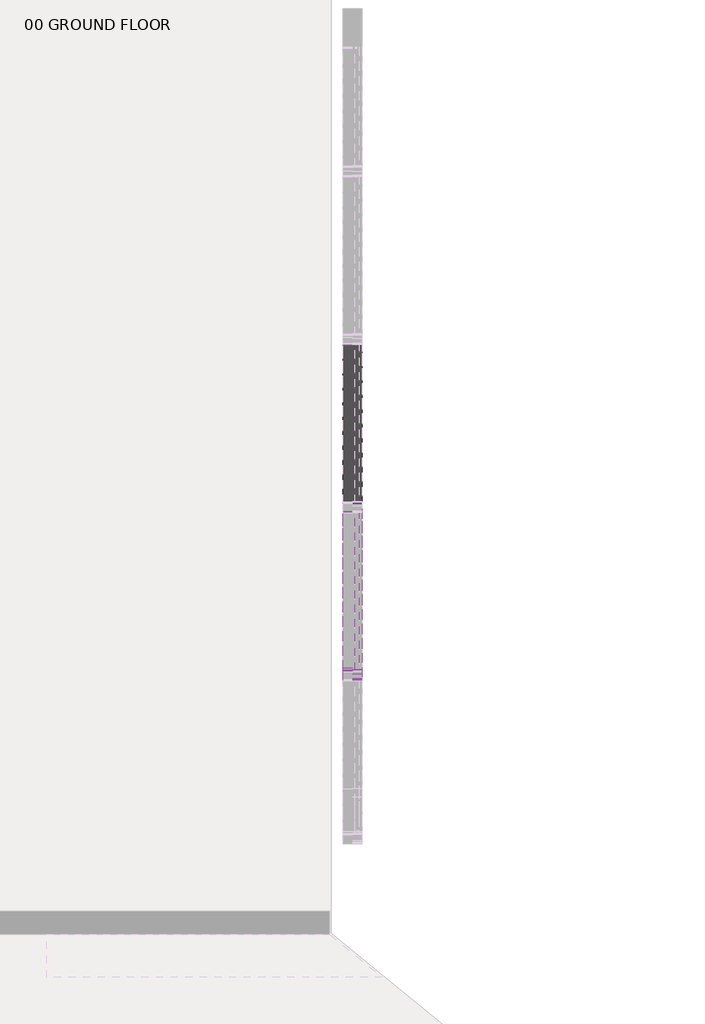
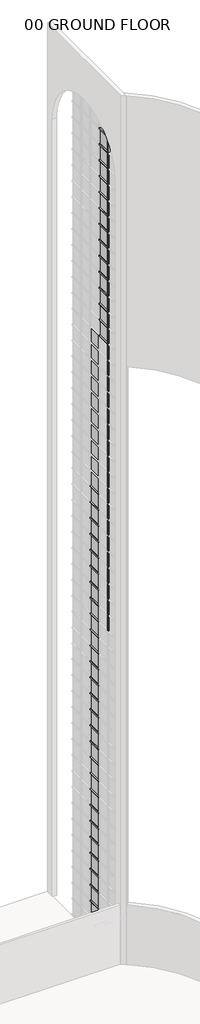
# One storey, part 26 of 33: 76 members, 51 plates.
"""IFC4 building model written with IfcOpenShell, lengths in millimetres."""

from ifc_helpers import new_model, si_unit, origin, place, context, project, spatial, transform, mapped, element, save
from components import member_14f97ceb, member_d1490fb0, member_2b49869a, member_f6015b47, member_ba1b3d85, member_e8d631ba, system_panel_glazed_c90b0923, system_panel_glazed_ba000c98

model = new_model("IFC4")

# Units and contexts
model_context = context("Model", 3, world=origin())
ifc_project = project(units=[si_unit("LENGTHUNIT", "METRE", prefix="MILLI")], contexts=[model_context])

# Site, building, storey
site = spatial("IfcSite", under=ifc_project)
building = spatial("IfcBuilding", under=site)
storey = spatial("IfcBuildingStorey", under=building, Name="00 GROUND FLOOR", Elevation=0.0)

# Members
placement = place(None, origin())
member_shape = member_14f97ceb(model_context)
element("IfcMember", 1, ObjectType="Rectangular Mullion : 2.5\" x 5\" rectangular", at=placement, inside=storey, context=model_context, shape_type="MappedRepresentation", body=[
    mapped(member_shape, transform((44184.4050515, 27381.6535716, 0.0), x_axis=(0.0, 0.0, -1.0), y_axis=(-1.0, 0.0, 0.0), z_axis=(0.0, 1.0, 0.0))),
])
member_2_shape = member_d1490fb0(model_context)
element("IfcMember", 2, ObjectType="Rectangular Mullion : 2.5\" x 5\" rectangular", at=placement, inside=storey, context=model_context, shape_type="MappedRepresentation", body=[
    mapped(member_2_shape, transform((44184.4050515, 27445.1535716, 1219.2), x_axis=(0.0, 0.0, 1.0), y_axis=(-1.0, 0.0, 0.0), z_axis=(0.0, -1.0, 0.0))),
])
element("IfcMember", 3, ObjectType="Rectangular Mullion : 2.5\" x 5\" rectangular", at=placement, inside=storey, context=model_context, shape_type="MappedRepresentation", body=[
    mapped(member_2_shape, transform((44184.4050515, 27445.1535716, 2438.4), x_axis=(0.0, 0.0, 1.0), y_axis=(-1.0, 0.0, 0.0), z_axis=(0.0, -1.0, 0.0))),
])
element("IfcMember", 4, ObjectType="Rectangular Mullion : 2.5\" x 5\" rectangular", at=placement, inside=storey, context=model_context, shape_type="MappedRepresentation", body=[
    mapped(member_2_shape, transform((44184.4050515, 27445.1535716, 3657.6), x_axis=(0.0, 0.0, 1.0), y_axis=(-1.0, 0.0, 0.0), z_axis=(0.0, -1.0, 0.0))),
])
element("IfcMember", 5, ObjectType="Rectangular Mullion : 2.5\" x 5\" rectangular", at=placement, inside=storey, context=model_context, shape_type="MappedRepresentation", body=[
    mapped(member_2_shape, transform((44184.4050515, 27445.1535716, 4876.8), x_axis=(0.0, 0.0, 1.0), y_axis=(-1.0, 0.0, 0.0), z_axis=(0.0, -1.0, 0.0))),
])
element("IfcMember", 6, ObjectType="Rectangular Mullion : 2.5\" x 5\" rectangular", at=placement, inside=storey, context=model_context, shape_type="MappedRepresentation", body=[
    mapped(member_2_shape, transform((44184.4050515, 27445.1535716, 6096.0), x_axis=(0.0, 0.0, 1.0), y_axis=(-1.0, 0.0, 0.0), z_axis=(0.0, -1.0, 0.0))),
])
element("IfcMember", 7, ObjectType="Rectangular Mullion : 2.5\" x 5\" rectangular", at=placement, inside=storey, context=model_context, shape_type="MappedRepresentation", body=[
    mapped(member_2_shape, transform((44184.4050515, 27445.1535716, 7315.2), x_axis=(0.0, 0.0, 1.0), y_axis=(-1.0, 0.0, 0.0), z_axis=(0.0, -1.0, 0.0))),
])
element("IfcMember", 8, ObjectType="Rectangular Mullion : 2.5\" x 5\" rectangular", at=placement, inside=storey, context=model_context, shape_type="MappedRepresentation", body=[
    mapped(member_2_shape, transform((44184.4050515, 27445.1535716, 8534.4), x_axis=(0.0, 0.0, 1.0), y_axis=(-1.0, 0.0, 0.0), z_axis=(0.0, -1.0, 0.0))),
])
element("IfcMember", 9, ObjectType="Rectangular Mullion : 2.5\" x 5\" rectangular", at=placement, inside=storey, context=model_context, shape_type="MappedRepresentation", body=[
    mapped(member_2_shape, transform((44184.4050515, 27445.1535716, 9753.6), x_axis=(0.0, 0.0, 1.0), y_axis=(-1.0, 0.0, 0.0), z_axis=(0.0, -1.0, 0.0))),
])
element("IfcMember", 10, ObjectType="Rectangular Mullion : 2.5\" x 5\" rectangular", at=placement, inside=storey, context=model_context, shape_type="MappedRepresentation", body=[
    mapped(member_2_shape, transform((44184.4050515, 27445.1535716, 10972.8), x_axis=(0.0, 0.0, 1.0), y_axis=(-1.0, 0.0, 0.0), z_axis=(0.0, -1.0, 0.0))),
])
element("IfcMember", 11, ObjectType="Rectangular Mullion : 2.5\" x 5\" rectangular", at=placement, inside=storey, context=model_context, shape_type="MappedRepresentation", body=[
    mapped(member_2_shape, transform((44184.4050515, 27445.1535716, 12192.0), x_axis=(0.0, 0.0, 1.0), y_axis=(-1.0, 0.0, 0.0), z_axis=(0.0, -1.0, 0.0))),
])
element("IfcMember", 12, ObjectType="Rectangular Mullion : 2.5\" x 5\" rectangular", at=placement, inside=storey, context=model_context, shape_type="MappedRepresentation", body=[
    mapped(member_2_shape, transform((44184.4050515, 27445.1535716, 13411.2), x_axis=(0.0, 0.0, 1.0), y_axis=(-1.0, 0.0, 0.0), z_axis=(0.0, -1.0, 0.0))),
])
element("IfcMember", 13, ObjectType="Rectangular Mullion : 2.5\" x 5\" rectangular", at=placement, inside=storey, context=model_context, shape_type="MappedRepresentation", body=[
    mapped(member_2_shape, transform((44184.4050515, 27445.1535716, 14630.4), x_axis=(0.0, 0.0, 1.0), y_axis=(-1.0, 0.0, 0.0), z_axis=(0.0, -1.0, 0.0))),
])
element("IfcMember", 14, ObjectType="Rectangular Mullion : 2.5\" x 5\" rectangular", at=placement, inside=storey, context=model_context, shape_type="MappedRepresentation", body=[
    mapped(member_2_shape, transform((44184.4050515, 27445.1535716, 15849.6), x_axis=(0.0, 0.0, 1.0), y_axis=(-1.0, 0.0, 0.0), z_axis=(0.0, -1.0, 0.0))),
])
element("IfcMember", 15, ObjectType="Rectangular Mullion : 2.5\" x 5\" rectangular", at=placement, inside=storey, context=model_context, shape_type="MappedRepresentation", body=[
    mapped(member_2_shape, transform((44184.4050515, 27445.1535716, 17068.8), x_axis=(0.0, 0.0, 1.0), y_axis=(-1.0, 0.0, 0.0), z_axis=(0.0, -1.0, 0.0))),
])
element("IfcMember", 16, ObjectType="Rectangular Mullion : 2.5\" x 5\" rectangular", at=placement, inside=storey, context=model_context, shape_type="MappedRepresentation", body=[
    mapped(member_2_shape, transform((44184.4050515, 27445.1535716, 18288.0), x_axis=(0.0, 0.0, 1.0), y_axis=(-1.0, 0.0, 0.0), z_axis=(0.0, -1.0, 0.0))),
])
element("IfcMember", 17, ObjectType="Rectangular Mullion : 2.5\" x 5\" rectangular", at=placement, inside=storey, context=model_context, shape_type="MappedRepresentation", body=[
    mapped(member_2_shape, transform((44184.4050515, 27445.1535716, 19507.2), x_axis=(0.0, 0.0, 1.0), y_axis=(-1.0, 0.0, 0.0), z_axis=(0.0, -1.0, 0.0))),
])
element("IfcMember", 18, ObjectType="Rectangular Mullion : 2.5\" x 5\" rectangular", at=placement, inside=storey, context=model_context, shape_type="MappedRepresentation", body=[
    mapped(member_2_shape, transform((44184.4050515, 27445.1535716, 20726.4), x_axis=(0.0, 0.0, 1.0), y_axis=(-1.0, 0.0, 0.0), z_axis=(0.0, -1.0, 0.0))),
])
element("IfcMember", 19, ObjectType="Rectangular Mullion : 2.5\" x 5\" rectangular", at=placement, inside=storey, context=model_context, shape_type="MappedRepresentation", body=[
    mapped(member_2_shape, transform((44184.4050515, 27445.1535716, 21945.6), x_axis=(0.0, 0.0, 1.0), y_axis=(-1.0, 0.0, 0.0), z_axis=(0.0, -1.0, 0.0))),
])
element("IfcMember", 20, ObjectType="Rectangular Mullion : 2.5\" x 5\" rectangular", at=placement, inside=storey, context=model_context, shape_type="MappedRepresentation", body=[
    mapped(member_2_shape, transform((44184.4050515, 27445.1535716, 23164.8), x_axis=(0.0, 0.0, 1.0), y_axis=(-1.0, 0.0, 0.0), z_axis=(0.0, -1.0, 0.0))),
])
element("IfcMember", 21, ObjectType="Rectangular Mullion : 2.5\" x 5\" rectangular", at=placement, inside=storey, context=model_context, shape_type="MappedRepresentation", body=[
    mapped(member_2_shape, transform((44184.4050515, 27445.1535716, 24384.0), x_axis=(0.0, 0.0, 1.0), y_axis=(-1.0, 0.0, 0.0), z_axis=(0.0, -1.0, 0.0))),
])
element("IfcMember", 22, ObjectType="Rectangular Mullion : 2.5\" x 5\" rectangular", at=placement, inside=storey, context=model_context, shape_type="MappedRepresentation", body=[
    mapped(member_2_shape, transform((44184.4050515, 27445.1535716, 25603.2), x_axis=(0.0, 0.0, 1.0), y_axis=(-1.0, 0.0, 0.0), z_axis=(0.0, -1.0, 0.0))),
])
element("IfcMember", 23, ObjectType="Rectangular Mullion : 2.5\" x 5\" rectangular", at=placement, inside=storey, context=model_context, shape_type="MappedRepresentation", body=[
    mapped(member_2_shape, transform((44184.4050515, 27445.1535716, 26822.4), x_axis=(0.0, 0.0, 1.0), y_axis=(-1.0, 0.0, 0.0), z_axis=(0.0, -1.0, 0.0))),
])
element("IfcMember", 24, ObjectType="Rectangular Mullion : 2.5\" x 5\" rectangular", at=placement, inside=storey, context=model_context, shape_type="MappedRepresentation", body=[
    mapped(member_2_shape, transform((44184.4050515, 27445.1535716, 28041.6), x_axis=(0.0, 0.0, 1.0), y_axis=(-1.0, 0.0, 0.0), z_axis=(0.0, -1.0, 0.0))),
])
element("IfcMember", 25, ObjectType="Rectangular Mullion : 2.5\" x 5\" rectangular", at=placement, inside=storey, context=model_context, shape_type="MappedRepresentation", body=[
    mapped(member_2_shape, transform((44184.4050515, 27445.1535716, 29260.8), x_axis=(0.0, 0.0, 1.0), y_axis=(-1.0, 0.0, 0.0), z_axis=(0.0, -1.0, 0.0))),
])
element("IfcMember", 26, ObjectType="Rectangular Mullion : 2.5\" x 5\" rectangular", at=placement, inside=storey, context=model_context, shape_type="MappedRepresentation", body=[
    mapped(member_2_shape, transform((44184.4050515, 27445.1535716, 30480.0), x_axis=(0.0, 0.0, 1.0), y_axis=(-1.0, 0.0, 0.0), z_axis=(0.0, -1.0, 0.0))),
])
element("IfcMember", 27, ObjectType="Rectangular Mullion : 2.5\" x 5\" rectangular", at=placement, inside=storey, context=model_context, shape_type="MappedRepresentation", body=[
    mapped(member_2_shape, transform((44184.4050515, 27445.1535716, 31699.2), x_axis=(0.0, 0.0, 1.0), y_axis=(-1.0, 0.0, 0.0), z_axis=(0.0, -1.0, 0.0))),
])
element("IfcMember", 28, ObjectType="Rectangular Mullion : 2.5\" x 5\" rectangular", at=placement, inside=storey, context=model_context, shape_type="MappedRepresentation", body=[
    mapped(member_2_shape, transform((44184.4050515, 27445.1535716, 32918.4), x_axis=(0.0, 0.0, 1.0), y_axis=(-1.0, 0.0, 0.0), z_axis=(0.0, -1.0, 0.0))),
])
element("IfcMember", 29, ObjectType="Rectangular Mullion : 2.5\" x 5\" rectangular", at=placement, inside=storey, context=model_context, shape_type="MappedRepresentation", body=[
    mapped(member_2_shape, transform((44184.4050515, 27445.1535716, 34137.6), x_axis=(0.0, 0.0, 1.0), y_axis=(-1.0, 0.0, 0.0), z_axis=(0.0, -1.0, 0.0))),
])
element("IfcMember", 30, ObjectType="Rectangular Mullion : 2.5\" x 5\" rectangular", at=placement, inside=storey, context=model_context, shape_type="MappedRepresentation", body=[
    mapped(member_2_shape, transform((44184.4050515, 26313.0392859, 46329.6), x_axis=(0.0, 0.0, 1.0), y_axis=(-1.0, 0.0, 0.0), z_axis=(0.0, -1.0, 0.0))),
])
element("IfcMember", 31, ObjectType="Rectangular Mullion : 2.5\" x 5\" rectangular", at=placement, inside=storey, context=model_context, shape_type="MappedRepresentation", body=[
    mapped(member_2_shape, transform((44184.4050515, 26313.0392859, 47548.8), x_axis=(0.0, 0.0, 1.0), y_axis=(-1.0, 0.0, 0.0), z_axis=(0.0, -1.0, 0.0))),
])
element("IfcMember", 32, ObjectType="Rectangular Mullion : 2.5\" x 5\" rectangular", at=placement, inside=storey, context=model_context, shape_type="MappedRepresentation", body=[
    mapped(member_2_shape, transform((44184.4050515, 26313.0392859, 48768.0), x_axis=(0.0, 0.0, 1.0), y_axis=(-1.0, 0.0, 0.0), z_axis=(0.0, -1.0, 0.0))),
])
element("IfcMember", 33, ObjectType="Rectangular Mullion : 2.5\" x 5\" rectangular", at=placement, inside=storey, context=model_context, shape_type="MappedRepresentation", body=[
    mapped(member_2_shape, transform((44184.4050515, 26313.0392859, 49987.2), x_axis=(0.0, 0.0, 1.0), y_axis=(-1.0, 0.0, 0.0), z_axis=(0.0, -1.0, 0.0))),
])
element("IfcMember", 34, ObjectType="Rectangular Mullion : 2.5\" x 5\" rectangular", at=placement, inside=storey, context=model_context, shape_type="MappedRepresentation", body=[
    mapped(member_2_shape, transform((44184.4050515, 26313.0392859, 51206.4), x_axis=(0.0, 0.0, 1.0), y_axis=(-1.0, 0.0, 0.0), z_axis=(0.0, -1.0, 0.0))),
])
element("IfcMember", 35, ObjectType="Rectangular Mullion : 2.5\" x 5\" rectangular", at=placement, inside=storey, context=model_context, shape_type="MappedRepresentation", body=[
    mapped(member_2_shape, transform((44184.4050515, 26313.0392859, 52425.6), x_axis=(0.0, 0.0, 1.0), y_axis=(-1.0, 0.0, 0.0), z_axis=(0.0, -1.0, 0.0))),
])
element("IfcMember", 36, ObjectType="Rectangular Mullion : 2.5\" x 5\" rectangular", at=placement, inside=storey, context=model_context, shape_type="MappedRepresentation", body=[
    mapped(member_2_shape, transform((44184.4050515, 26313.0392859, 53644.8), x_axis=(0.0, 0.0, 1.0), y_axis=(-1.0, 0.0, 0.0), z_axis=(0.0, -1.0, 0.0))),
])
element("IfcMember", 37, ObjectType="Rectangular Mullion : 2.5\" x 5\" rectangular", at=placement, inside=storey, context=model_context, shape_type="MappedRepresentation", body=[
    mapped(member_2_shape, transform((44184.4050515, 26313.0392859, 54864.0), x_axis=(0.0, 0.0, 1.0), y_axis=(-1.0, 0.0, 0.0), z_axis=(0.0, -1.0, 0.0))),
])
element("IfcMember", 38, ObjectType="Rectangular Mullion : 2.5\" x 5\" rectangular", at=placement, inside=storey, context=model_context, shape_type="MappedRepresentation", body=[
    mapped(member_2_shape, transform((44184.4050515, 26313.0392859, 56083.2), x_axis=(0.0, 0.0, 1.0), y_axis=(-1.0, 0.0, 0.0), z_axis=(0.0, -1.0, 0.0))),
])
element("IfcMember", 39, ObjectType="Rectangular Mullion : 2.5\" x 5\" rectangular", at=placement, inside=storey, context=model_context, shape_type="MappedRepresentation", body=[
    mapped(member_2_shape, transform((44184.4050515, 26313.0392859, 57302.4), x_axis=(0.0, 0.0, 1.0), y_axis=(-1.0, 0.0, 0.0), z_axis=(0.0, -1.0, 0.0))),
])
element("IfcMember", 40, ObjectType="Rectangular Mullion : 2.5\" x 5\" rectangular", at=placement, inside=storey, context=model_context, shape_type="MappedRepresentation", body=[
    mapped(member_2_shape, transform((44184.4050515, 26313.0392859, 58521.6), x_axis=(0.0, 0.0, 1.0), y_axis=(-1.0, 0.0, 0.0), z_axis=(0.0, -1.0, 0.0))),
])
element("IfcMember", 41, ObjectType="Rectangular Mullion : 2.5\" x 5\" rectangular", at=placement, inside=storey, context=model_context, shape_type="MappedRepresentation", body=[
    mapped(member_2_shape, transform((44184.4050515, 26313.0392859, 59740.8), x_axis=(0.0, 0.0, 1.0), y_axis=(-1.0, 0.0, 0.0), z_axis=(0.0, -1.0, 0.0))),
])
element("IfcMember", 42, ObjectType="Rectangular Mullion : 2.5\" x 5\" rectangular", at=placement, inside=storey, context=model_context, shape_type="MappedRepresentation", body=[
    mapped(member_2_shape, transform((44184.4050515, 26313.0392859, 60960.0), x_axis=(0.0, 0.0, 1.0), y_axis=(-1.0, 0.0, 0.0), z_axis=(0.0, -1.0, 0.0))),
])
element("IfcMember", 43, ObjectType="Rectangular Mullion : 2.5\" x 5\" rectangular", at=placement, inside=storey, context=model_context, shape_type="MappedRepresentation", body=[
    mapped(member_2_shape, transform((44184.4050515, 26313.0392859, 62179.2), x_axis=(0.0, 0.0, 1.0), y_axis=(-1.0, 0.0, 0.0), z_axis=(0.0, -1.0, 0.0))),
])
member_3_shape = member_2b49869a(model_context)
element("IfcMember", 44, ObjectType="Rectangular Mullion : 2.5\" x 5\" rectangular", at=placement, inside=storey, context=model_context, shape_type="MappedRepresentation", body=[
    mapped(member_3_shape, transform((44184.4050515, 26281.2892859, 24384.0), x_axis=(0.0, -1.0, 0.0), y_axis=(-1.0, 0.0, 0.0), z_axis=(0.0, 0.0, -1.0))),
])
element("IfcMember", 45, ObjectType="Rectangular Mullion : 2.5\" x 5\" rectangular", at=placement, inside=storey, context=model_context, shape_type="MappedRepresentation", body=[
    mapped(member_3_shape, transform((44184.4050515, 26281.2892859, 25603.2), x_axis=(0.0, -1.0, 0.0), y_axis=(-1.0, 0.0, 0.0), z_axis=(0.0, 0.0, -1.0))),
])
element("IfcMember", 46, ObjectType="Rectangular Mullion : 2.5\" x 5\" rectangular", at=placement, inside=storey, context=model_context, shape_type="MappedRepresentation", body=[
    mapped(member_3_shape, transform((44184.4050515, 26281.2892859, 26822.4), x_axis=(0.0, -1.0, 0.0), y_axis=(-1.0, 0.0, 0.0), z_axis=(0.0, 0.0, -1.0))),
])
element("IfcMember", 47, ObjectType="Rectangular Mullion : 2.5\" x 5\" rectangular", at=placement, inside=storey, context=model_context, shape_type="MappedRepresentation", body=[
    mapped(member_3_shape, transform((44184.4050515, 26281.2892859, 28041.6), x_axis=(0.0, -1.0, 0.0), y_axis=(-1.0, 0.0, 0.0), z_axis=(0.0, 0.0, -1.0))),
])
element("IfcMember", 48, ObjectType="Rectangular Mullion : 2.5\" x 5\" rectangular", at=placement, inside=storey, context=model_context, shape_type="MappedRepresentation", body=[
    mapped(member_3_shape, transform((44184.4050515, 26281.2892859, 29260.8), x_axis=(0.0, -1.0, 0.0), y_axis=(-1.0, 0.0, 0.0), z_axis=(0.0, 0.0, -1.0))),
])
element("IfcMember", 49, ObjectType="Rectangular Mullion : 2.5\" x 5\" rectangular", at=placement, inside=storey, context=model_context, shape_type="MappedRepresentation", body=[
    mapped(member_3_shape, transform((44184.4050515, 26281.2892859, 30480.0), x_axis=(0.0, -1.0, 0.0), y_axis=(-1.0, 0.0, 0.0), z_axis=(0.0, 0.0, -1.0))),
])
element("IfcMember", 50, ObjectType="Rectangular Mullion : 2.5\" x 5\" rectangular", at=placement, inside=storey, context=model_context, shape_type="MappedRepresentation", body=[
    mapped(member_3_shape, transform((44184.4050515, 26281.2892859, 31699.2), x_axis=(0.0, -1.0, 0.0), y_axis=(-1.0, 0.0, 0.0), z_axis=(0.0, 0.0, -1.0))),
])
element("IfcMember", 51, ObjectType="Rectangular Mullion : 2.5\" x 5\" rectangular", at=placement, inside=storey, context=model_context, shape_type="MappedRepresentation", body=[
    mapped(member_3_shape, transform((44184.4050515, 26281.2892859, 32918.4), x_axis=(0.0, -1.0, 0.0), y_axis=(-1.0, 0.0, 0.0), z_axis=(0.0, 0.0, -1.0))),
])
element("IfcMember", 52, ObjectType="Rectangular Mullion : 2.5\" x 5\" rectangular", at=placement, inside=storey, context=model_context, shape_type="MappedRepresentation", body=[
    mapped(member_3_shape, transform((44184.4050515, 26281.2892859, 34137.6), x_axis=(0.0, -1.0, 0.0), y_axis=(-1.0, 0.0, 0.0), z_axis=(0.0, 0.0, -1.0))),
])
element("IfcMember", 53, ObjectType="Rectangular Mullion : 2.5\" x 5\" rectangular", at=placement, inside=storey, context=model_context, shape_type="MappedRepresentation", body=[
    mapped(member_3_shape, transform((44184.4050515, 26281.2892859, 35356.8), x_axis=(0.0, -1.0, 0.0), y_axis=(-1.0, 0.0, 0.0), z_axis=(0.0, 0.0, -1.0))),
])
element("IfcMember", 54, ObjectType="Rectangular Mullion : 2.5\" x 5\" rectangular", at=placement, inside=storey, context=model_context, shape_type="MappedRepresentation", body=[
    mapped(member_3_shape, transform((44184.4050515, 26281.2892859, 36576.0), x_axis=(0.0, -1.0, 0.0), y_axis=(-1.0, 0.0, 0.0), z_axis=(0.0, 0.0, -1.0))),
])
element("IfcMember", 55, ObjectType="Rectangular Mullion : 2.5\" x 5\" rectangular", at=placement, inside=storey, context=model_context, shape_type="MappedRepresentation", body=[
    mapped(member_3_shape, transform((44184.4050515, 26281.2892859, 37795.2), x_axis=(0.0, -1.0, 0.0), y_axis=(-1.0, 0.0, 0.0), z_axis=(0.0, 0.0, -1.0))),
])
element("IfcMember", 56, ObjectType="Rectangular Mullion : 2.5\" x 5\" rectangular", at=placement, inside=storey, context=model_context, shape_type="MappedRepresentation", body=[
    mapped(member_3_shape, transform((44184.4050515, 26281.2892859, 39014.4), x_axis=(0.0, -1.0, 0.0), y_axis=(-1.0, 0.0, 0.0), z_axis=(0.0, 0.0, -1.0))),
])
element("IfcMember", 57, ObjectType="Rectangular Mullion : 2.5\" x 5\" rectangular", at=placement, inside=storey, context=model_context, shape_type="MappedRepresentation", body=[
    mapped(member_3_shape, transform((44184.4050515, 26281.2892859, 40233.6), x_axis=(0.0, -1.0, 0.0), y_axis=(-1.0, 0.0, 0.0), z_axis=(0.0, 0.0, -1.0))),
])
element("IfcMember", 58, ObjectType="Rectangular Mullion : 2.5\" x 5\" rectangular", at=placement, inside=storey, context=model_context, shape_type="MappedRepresentation", body=[
    mapped(member_3_shape, transform((44184.4050515, 26281.2892859, 41452.8), x_axis=(0.0, -1.0, 0.0), y_axis=(-1.0, 0.0, 0.0), z_axis=(0.0, 0.0, -1.0))),
])
element("IfcMember", 59, ObjectType="Rectangular Mullion : 2.5\" x 5\" rectangular", at=placement, inside=storey, context=model_context, shape_type="MappedRepresentation", body=[
    mapped(member_3_shape, transform((44184.4050515, 26281.2892859, 42672.0), x_axis=(0.0, -1.0, 0.0), y_axis=(-1.0, 0.0, 0.0), z_axis=(0.0, 0.0, -1.0))),
])
element("IfcMember", 60, ObjectType="Rectangular Mullion : 2.5\" x 5\" rectangular", at=placement, inside=storey, context=model_context, shape_type="MappedRepresentation", body=[
    mapped(member_3_shape, transform((44184.4050515, 26281.2892859, 43891.2), x_axis=(0.0, -1.0, 0.0), y_axis=(-1.0, 0.0, 0.0), z_axis=(0.0, 0.0, -1.0))),
])
element("IfcMember", 61, ObjectType="Rectangular Mullion : 2.5\" x 5\" rectangular", at=placement, inside=storey, context=model_context, shape_type="MappedRepresentation", body=[
    mapped(member_3_shape, transform((44184.4050515, 26281.2892859, 45110.4), x_axis=(0.0, -1.0, 0.0), y_axis=(-1.0, 0.0, 0.0), z_axis=(0.0, 0.0, -1.0))),
])
element("IfcMember", 62, ObjectType="Rectangular Mullion : 2.5\" x 5\" rectangular", at=placement, inside=storey, context=model_context, shape_type="MappedRepresentation", body=[
    mapped(member_3_shape, transform((44184.4050515, 26281.2892859, 46329.6), x_axis=(0.0, -1.0, 0.0), y_axis=(-1.0, 0.0, 0.0), z_axis=(0.0, 0.0, -1.0))),
])
element("IfcMember", 63, ObjectType="Rectangular Mullion : 2.5\" x 5\" rectangular", at=placement, inside=storey, context=model_context, shape_type="MappedRepresentation", body=[
    mapped(member_3_shape, transform((44184.4050515, 26281.2892859, 47548.8), x_axis=(0.0, -1.0, 0.0), y_axis=(-1.0, 0.0, 0.0), z_axis=(0.0, 0.0, -1.0))),
])
element("IfcMember", 64, ObjectType="Rectangular Mullion : 2.5\" x 5\" rectangular", at=placement, inside=storey, context=model_context, shape_type="MappedRepresentation", body=[
    mapped(member_3_shape, transform((44184.4050515, 26281.2892859, 48768.0), x_axis=(0.0, -1.0, 0.0), y_axis=(-1.0, 0.0, 0.0), z_axis=(0.0, 0.0, -1.0))),
])
element("IfcMember", 65, ObjectType="Rectangular Mullion : 2.5\" x 5\" rectangular", at=placement, inside=storey, context=model_context, shape_type="MappedRepresentation", body=[
    mapped(member_3_shape, transform((44184.4050515, 26281.2892859, 49987.2), x_axis=(0.0, -1.0, 0.0), y_axis=(-1.0, 0.0, 0.0), z_axis=(0.0, 0.0, -1.0))),
])
element("IfcMember", 66, ObjectType="Rectangular Mullion : 2.5\" x 5\" rectangular", at=placement, inside=storey, context=model_context, shape_type="MappedRepresentation", body=[
    mapped(member_3_shape, transform((44184.4050515, 26281.2892859, 51206.4), x_axis=(0.0, -1.0, 0.0), y_axis=(-1.0, 0.0, 0.0), z_axis=(0.0, 0.0, -1.0))),
])
element("IfcMember", 67, ObjectType="Rectangular Mullion : 2.5\" x 5\" rectangular", at=placement, inside=storey, context=model_context, shape_type="MappedRepresentation", body=[
    mapped(member_3_shape, transform((44184.4050515, 26281.2892859, 52425.6), x_axis=(0.0, -1.0, 0.0), y_axis=(-1.0, 0.0, 0.0), z_axis=(0.0, 0.0, -1.0))),
])
element("IfcMember", 68, ObjectType="Rectangular Mullion : 2.5\" x 5\" rectangular", at=placement, inside=storey, context=model_context, shape_type="MappedRepresentation", body=[
    mapped(member_3_shape, transform((44184.4050515, 26281.2892859, 53644.8), x_axis=(0.0, -1.0, 0.0), y_axis=(-1.0, 0.0, 0.0), z_axis=(0.0, 0.0, -1.0))),
])
element("IfcMember", 69, ObjectType="Rectangular Mullion : 2.5\" x 5\" rectangular", at=placement, inside=storey, context=model_context, shape_type="MappedRepresentation", body=[
    mapped(member_3_shape, transform((44184.4050515, 26281.2892859, 54864.0), x_axis=(0.0, -1.0, 0.0), y_axis=(-1.0, 0.0, 0.0), z_axis=(0.0, 0.0, -1.0))),
])
element("IfcMember", 70, ObjectType="Rectangular Mullion : 2.5\" x 5\" rectangular", at=placement, inside=storey, context=model_context, shape_type="MappedRepresentation", body=[
    mapped(member_3_shape, transform((44184.4050515, 26281.2892859, 56083.2), x_axis=(0.0, -1.0, 0.0), y_axis=(-1.0, 0.0, 0.0), z_axis=(0.0, 0.0, -1.0))),
])
element("IfcMember", 71, ObjectType="Rectangular Mullion : 2.5\" x 5\" rectangular", at=placement, inside=storey, context=model_context, shape_type="MappedRepresentation", body=[
    mapped(member_3_shape, transform((44184.4050515, 26281.2892859, 57302.4), x_axis=(0.0, -1.0, 0.0), y_axis=(-1.0, 0.0, 0.0), z_axis=(0.0, 0.0, -1.0))),
])
element("IfcMember", 72, ObjectType="Rectangular Mullion : 2.5\" x 5\" rectangular", at=placement, inside=storey, context=model_context, shape_type="MappedRepresentation", body=[
    mapped(member_3_shape, transform((44184.4050515, 26281.2892859, 58521.6), x_axis=(0.0, -1.0, 0.0), y_axis=(-1.0, 0.0, 0.0), z_axis=(0.0, 0.0, -1.0))),
])
element("IfcMember", 73, ObjectType="Rectangular Mullion : 2.5\" x 5\" rectangular", at=placement, inside=storey, context=model_context, shape_type="MappedRepresentation", body=[
    mapped(member_3_shape, transform((44184.4050515, 26281.2892859, 59740.8), x_axis=(0.0, -1.0, 0.0), y_axis=(-1.0, 0.0, 0.0), z_axis=(0.0, 0.0, -1.0))),
])
member_4_shape = member_f6015b47(model_context)
element("IfcMember", 74, ObjectType="Rectangular Mullion : 2.5\" x 5\" rectangular", at=placement, inside=storey, context=model_context, shape_type="MappedRepresentation", body=[
    mapped(member_4_shape, transform((44184.4050515, 26281.2892859, 62209.1023307), x_axis=(0.0, -0.7142857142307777, 0.6998542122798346), y_axis=(-1.0, 0.0, 0.0), z_axis=(0.0, -0.6998542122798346, -0.7142857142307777))),
])
member_5_shape = member_ba1b3d85(model_context)
element("IfcMember", 75, ObjectType="Rectangular Mullion : 2.5\" x 5\" rectangular", at=placement, inside=storey, context=model_context, shape_type="MappedRepresentation", body=[
    mapped(member_5_shape, transform((44184.4050515, 26281.2892859, 60960.0), x_axis=(0.0, -1.0, 0.0), y_axis=(-1.0, 0.0, 0.0), z_axis=(0.0, 0.0, -1.0))),
])
member_6_shape = member_e8d631ba(model_context)
element("IfcMember", 76, ObjectType="Rectangular Mullion : 2.5\" x 5\" rectangular", at=placement, inside=storey, context=model_context, shape_type="MappedRepresentation", body=[
    mapped(member_6_shape, transform((44184.4050515, 26252.2975528, 62179.2), x_axis=(0.0, -0.7216024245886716, 0.6923076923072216), y_axis=(-1.0, 0.0, 0.0), z_axis=(0.0, -0.6923076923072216, -0.7216024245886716))),
])

# Plates
system_panel_glazed_shape = system_panel_glazed_c90b0923(model_context)
element("IfcPlate", 77, ObjectType="System Panel : Glazed", at=placement, inside=storey, context=model_context, shape_type="MappedRepresentation", body=[
    mapped(system_panel_glazed_shape, transform((44184.4050515, 27979.4607144, 63.5), x_axis=(0.0, -1.0, 0.0), y_axis=(1.0, 0.0, 0.0), z_axis=(0.0, 0.0, 1.0))),
])
system_panel_glazed_2_shape = system_panel_glazed_ba000c98(model_context)
element("IfcPlate", 78, ObjectType="System Panel : Glazed", at=placement, inside=storey, context=model_context, shape_type="MappedRepresentation", body=[
    mapped(system_panel_glazed_2_shape, transform((44184.4050515, 27979.4607144, 1250.95), x_axis=(0.0, -1.0, 0.0), y_axis=(1.0, 0.0, 0.0), z_axis=(0.0, 0.0, 1.0))),
])
element("IfcPlate", 79, ObjectType="System Panel : Glazed", at=placement, inside=storey, context=model_context, shape_type="MappedRepresentation", body=[
    mapped(system_panel_glazed_2_shape, transform((44184.4050515, 27979.4607144, 2470.15), x_axis=(0.0, -1.0, 0.0), y_axis=(1.0, 0.0, 0.0), z_axis=(0.0, 0.0, 1.0))),
])
element("IfcPlate", 80, ObjectType="System Panel : Glazed", at=placement, inside=storey, context=model_context, shape_type="MappedRepresentation", body=[
    mapped(system_panel_glazed_2_shape, transform((44184.4050515, 27979.4607144, 3689.35), x_axis=(0.0, -1.0, 0.0), y_axis=(1.0, 0.0, 0.0), z_axis=(0.0, 0.0, 1.0))),
])
element("IfcPlate", 81, ObjectType="System Panel : Glazed", at=placement, inside=storey, context=model_context, shape_type="MappedRepresentation", body=[
    mapped(system_panel_glazed_2_shape, transform((44184.4050515, 27979.4607144, 4908.55), x_axis=(0.0, -1.0, 0.0), y_axis=(1.0, 0.0, 0.0), z_axis=(0.0, 0.0, 1.0))),
])
element("IfcPlate", 82, ObjectType="System Panel : Glazed", at=placement, inside=storey, context=model_context, shape_type="MappedRepresentation", body=[
    mapped(system_panel_glazed_2_shape, transform((44184.4050515, 27979.4607144, 6127.75), x_axis=(0.0, -1.0, 0.0), y_axis=(1.0, 0.0, 0.0), z_axis=(0.0, 0.0, 1.0))),
])
element("IfcPlate", 83, ObjectType="System Panel : Glazed", at=placement, inside=storey, context=model_context, shape_type="MappedRepresentation", body=[
    mapped(system_panel_glazed_2_shape, transform((44184.4050515, 27979.4607144, 7346.95), x_axis=(0.0, -1.0, 0.0), y_axis=(1.0, 0.0, 0.0), z_axis=(0.0, 0.0, 1.0))),
])
element("IfcPlate", 84, ObjectType="System Panel : Glazed", at=placement, inside=storey, context=model_context, shape_type="MappedRepresentation", body=[
    mapped(system_panel_glazed_2_shape, transform((44184.4050515, 27979.4607144, 8566.15), x_axis=(0.0, -1.0, 0.0), y_axis=(1.0, 0.0, 0.0), z_axis=(0.0, 0.0, 1.0))),
])
element("IfcPlate", 85, ObjectType="System Panel : Glazed", at=placement, inside=storey, context=model_context, shape_type="MappedRepresentation", body=[
    mapped(system_panel_glazed_2_shape, transform((44184.4050515, 27979.4607144, 9785.35), x_axis=(0.0, -1.0, 0.0), y_axis=(1.0, 0.0, 0.0), z_axis=(0.0, 0.0, 1.0))),
])
element("IfcPlate", 86, ObjectType="System Panel : Glazed", at=placement, inside=storey, context=model_context, shape_type="MappedRepresentation", body=[
    mapped(system_panel_glazed_2_shape, transform((44184.4050515, 27979.4607144, 11004.55), x_axis=(0.0, -1.0, 0.0), y_axis=(1.0, 0.0, 0.0), z_axis=(0.0, 0.0, 1.0))),
])
element("IfcPlate", 87, ObjectType="System Panel : Glazed", at=placement, inside=storey, context=model_context, shape_type="MappedRepresentation", body=[
    mapped(system_panel_glazed_2_shape, transform((44184.4050515, 27979.4607144, 12223.75), x_axis=(0.0, -1.0, 0.0), y_axis=(1.0, 0.0, 0.0), z_axis=(0.0, 0.0, 1.0))),
])
element("IfcPlate", 88, ObjectType="System Panel : Glazed", at=placement, inside=storey, context=model_context, shape_type="MappedRepresentation", body=[
    mapped(system_panel_glazed_2_shape, transform((44184.4050515, 27979.4607144, 13442.95), x_axis=(0.0, -1.0, 0.0), y_axis=(1.0, 0.0, 0.0), z_axis=(0.0, 0.0, 1.0))),
])
element("IfcPlate", 89, ObjectType="System Panel : Glazed", at=placement, inside=storey, context=model_context, shape_type="MappedRepresentation", body=[
    mapped(system_panel_glazed_2_shape, transform((44184.4050515, 27979.4607144, 14662.15), x_axis=(0.0, -1.0, 0.0), y_axis=(1.0, 0.0, 0.0), z_axis=(0.0, 0.0, 1.0))),
])
element("IfcPlate", 90, ObjectType="System Panel : Glazed", at=placement, inside=storey, context=model_context, shape_type="MappedRepresentation", body=[
    mapped(system_panel_glazed_2_shape, transform((44184.4050515, 27979.4607144, 15881.35), x_axis=(0.0, -1.0, 0.0), y_axis=(1.0, 0.0, 0.0), z_axis=(0.0, 0.0, 1.0))),
])
element("IfcPlate", 91, ObjectType="System Panel : Glazed", at=placement, inside=storey, context=model_context, shape_type="MappedRepresentation", body=[
    mapped(system_panel_glazed_2_shape, transform((44184.4050515, 27979.4607144, 17100.55), x_axis=(0.0, -1.0, 0.0), y_axis=(1.0, 0.0, 0.0), z_axis=(0.0, 0.0, 1.0))),
])
element("IfcPlate", 92, ObjectType="System Panel : Glazed", at=placement, inside=storey, context=model_context, shape_type="MappedRepresentation", body=[
    mapped(system_panel_glazed_2_shape, transform((44184.4050515, 27979.4607144, 18319.75), x_axis=(0.0, -1.0, 0.0), y_axis=(1.0, 0.0, 0.0), z_axis=(0.0, 0.0, 1.0))),
])
element("IfcPlate", 93, ObjectType="System Panel : Glazed", at=placement, inside=storey, context=model_context, shape_type="MappedRepresentation", body=[
    mapped(system_panel_glazed_2_shape, transform((44184.4050515, 27979.4607144, 19538.95), x_axis=(0.0, -1.0, 0.0), y_axis=(1.0, 0.0, 0.0), z_axis=(0.0, 0.0, 1.0))),
])
element("IfcPlate", 94, ObjectType="System Panel : Glazed", at=placement, inside=storey, context=model_context, shape_type="MappedRepresentation", body=[
    mapped(system_panel_glazed_2_shape, transform((44184.4050515, 27979.4607144, 20758.15), x_axis=(0.0, -1.0, 0.0), y_axis=(1.0, 0.0, 0.0), z_axis=(0.0, 0.0, 1.0))),
])
element("IfcPlate", 95, ObjectType="System Panel : Glazed", at=placement, inside=storey, context=model_context, shape_type="MappedRepresentation", body=[
    mapped(system_panel_glazed_2_shape, transform((44184.4050515, 27979.4607144, 21977.35), x_axis=(0.0, -1.0, 0.0), y_axis=(1.0, 0.0, 0.0), z_axis=(0.0, 0.0, 1.0))),
])
element("IfcPlate", 96, ObjectType="System Panel : Glazed", at=placement, inside=storey, context=model_context, shape_type="MappedRepresentation", body=[
    mapped(system_panel_glazed_2_shape, transform((44184.4050515, 27979.4607144, 23196.55), x_axis=(0.0, -1.0, 0.0), y_axis=(1.0, 0.0, 0.0), z_axis=(0.0, 0.0, 1.0))),
])
element("IfcPlate", 97, ObjectType="System Panel : Glazed", at=placement, inside=storey, context=model_context, shape_type="MappedRepresentation", body=[
    mapped(system_panel_glazed_2_shape, transform((44184.4050515, 27979.4607144, 24415.75), x_axis=(0.0, -1.0, 0.0), y_axis=(1.0, 0.0, 0.0), z_axis=(0.0, 0.0, 1.0))),
])
element("IfcPlate", 98, ObjectType="System Panel : Glazed", at=placement, inside=storey, context=model_context, shape_type="MappedRepresentation", body=[
    mapped(system_panel_glazed_2_shape, transform((44184.4050515, 27979.4607144, 25634.95), x_axis=(0.0, -1.0, 0.0), y_axis=(1.0, 0.0, 0.0), z_axis=(0.0, 0.0, 1.0))),
])
element("IfcPlate", 99, ObjectType="System Panel : Glazed", at=placement, inside=storey, context=model_context, shape_type="MappedRepresentation", body=[
    mapped(system_panel_glazed_2_shape, transform((44184.4050515, 27979.4607144, 26854.15), x_axis=(0.0, -1.0, 0.0), y_axis=(1.0, 0.0, 0.0), z_axis=(0.0, 0.0, 1.0))),
])
element("IfcPlate", 100, ObjectType="System Panel : Glazed", at=placement, inside=storey, context=model_context, shape_type="MappedRepresentation", body=[
    mapped(system_panel_glazed_2_shape, transform((44184.4050515, 27979.4607144, 28073.35), x_axis=(0.0, -1.0, 0.0), y_axis=(1.0, 0.0, 0.0), z_axis=(0.0, 0.0, 1.0))),
])
element("IfcPlate", 101, ObjectType="System Panel : Glazed", at=placement, inside=storey, context=model_context, shape_type="MappedRepresentation", body=[
    mapped(system_panel_glazed_2_shape, transform((44184.4050515, 27979.4607144, 29292.55), x_axis=(0.0, -1.0, 0.0), y_axis=(1.0, 0.0, 0.0), z_axis=(0.0, 0.0, 1.0))),
])
element("IfcPlate", 102, ObjectType="System Panel : Glazed", at=placement, inside=storey, context=model_context, shape_type="MappedRepresentation", body=[
    mapped(system_panel_glazed_2_shape, transform((44184.4050515, 27979.4607144, 30511.75), x_axis=(0.0, -1.0, 0.0), y_axis=(1.0, 0.0, 0.0), z_axis=(0.0, 0.0, 1.0))),
])
element("IfcPlate", 103, ObjectType="System Panel : Glazed", at=placement, inside=storey, context=model_context, shape_type="MappedRepresentation", body=[
    mapped(system_panel_glazed_2_shape, transform((44184.4050515, 27979.4607144, 31730.95), x_axis=(0.0, -1.0, 0.0), y_axis=(1.0, 0.0, 0.0), z_axis=(0.0, 0.0, 1.0))),
])
element("IfcPlate", 104, ObjectType="System Panel : Glazed", at=placement, inside=storey, context=model_context, shape_type="MappedRepresentation", body=[
    mapped(system_panel_glazed_2_shape, transform((44184.4050515, 27979.4607144, 32950.15), x_axis=(0.0, -1.0, 0.0), y_axis=(1.0, 0.0, 0.0), z_axis=(0.0, 0.0, 1.0))),
])
element("IfcPlate", 105, ObjectType="System Panel : Glazed", at=placement, inside=storey, context=model_context, shape_type="MappedRepresentation", body=[
    mapped(system_panel_glazed_2_shape, transform((44184.4050515, 27979.4607144, 34169.35), x_axis=(0.0, -1.0, 0.0), y_axis=(1.0, 0.0, 0.0), z_axis=(0.0, 0.0, 1.0))),
])
element("IfcPlate", 106, ObjectType="System Panel : Glazed", at=placement, inside=storey, context=model_context, shape_type="MappedRepresentation", body=[
    mapped(system_panel_glazed_2_shape, transform((44184.4050515, 27979.4607144, 35388.55), x_axis=(0.0, -1.0, 0.0), y_axis=(1.0, 0.0, 0.0), z_axis=(0.0, 0.0, 1.0))),
])
element("IfcPlate", 107, ObjectType="System Panel : Glazed", at=placement, inside=storey, context=model_context, shape_type="MappedRepresentation", body=[
    mapped(system_panel_glazed_2_shape, transform((44184.4050515, 27979.4607144, 36607.75), x_axis=(0.0, -1.0, 0.0), y_axis=(1.0, 0.0, 0.0), z_axis=(0.0, 0.0, 1.0))),
])
element("IfcPlate", 108, ObjectType="System Panel : Glazed", at=placement, inside=storey, context=model_context, shape_type="MappedRepresentation", body=[
    mapped(system_panel_glazed_2_shape, transform((44184.4050515, 27979.4607144, 37826.95), x_axis=(0.0, -1.0, 0.0), y_axis=(1.0, 0.0, 0.0), z_axis=(0.0, 0.0, 1.0))),
])
element("IfcPlate", 109, ObjectType="System Panel : Glazed", at=placement, inside=storey, context=model_context, shape_type="MappedRepresentation", body=[
    mapped(system_panel_glazed_2_shape, transform((44184.4050515, 27979.4607144, 39046.15), x_axis=(0.0, -1.0, 0.0), y_axis=(1.0, 0.0, 0.0), z_axis=(0.0, 0.0, 1.0))),
])
element("IfcPlate", 110, ObjectType="System Panel : Glazed", at=placement, inside=storey, context=model_context, shape_type="MappedRepresentation", body=[
    mapped(system_panel_glazed_2_shape, transform((44184.4050515, 27979.4607144, 40265.35), x_axis=(0.0, -1.0, 0.0), y_axis=(1.0, 0.0, 0.0), z_axis=(0.0, 0.0, 1.0))),
])
element("IfcPlate", 111, ObjectType="System Panel : Glazed", at=placement, inside=storey, context=model_context, shape_type="MappedRepresentation", body=[
    mapped(system_panel_glazed_2_shape, transform((44184.4050515, 27979.4607144, 41484.55), x_axis=(0.0, -1.0, 0.0), y_axis=(1.0, 0.0, 0.0), z_axis=(0.0, 0.0, 1.0))),
])
element("IfcPlate", 112, ObjectType="System Panel : Glazed", at=placement, inside=storey, context=model_context, shape_type="MappedRepresentation", body=[
    mapped(system_panel_glazed_2_shape, transform((44184.4050515, 27979.4607144, 42703.75), x_axis=(0.0, -1.0, 0.0), y_axis=(1.0, 0.0, 0.0), z_axis=(0.0, 0.0, 1.0))),
])
element("IfcPlate", 113, ObjectType="System Panel : Glazed", at=placement, inside=storey, context=model_context, shape_type="MappedRepresentation", body=[
    mapped(system_panel_glazed_2_shape, transform((44184.4050515, 27979.4607144, 43922.95), x_axis=(0.0, -1.0, 0.0), y_axis=(1.0, 0.0, 0.0), z_axis=(0.0, 0.0, 1.0))),
])
element("IfcPlate", 114, ObjectType="System Panel : Glazed", at=placement, inside=storey, context=model_context, shape_type="MappedRepresentation", body=[
    mapped(system_panel_glazed_2_shape, transform((44184.4050515, 27979.4607144, 45142.15), x_axis=(0.0, -1.0, 0.0), y_axis=(1.0, 0.0, 0.0), z_axis=(0.0, 0.0, 1.0))),
])
element("IfcPlate", 115, ObjectType="System Panel : Glazed", at=placement, inside=storey, context=model_context, shape_type="MappedRepresentation", body=[
    mapped(system_panel_glazed_2_shape, transform((44184.4050515, 26847.3464287, 46361.35), x_axis=(0.0, -1.0, 0.0), y_axis=(1.0, 0.0, 0.0), z_axis=(0.0, 0.0, 1.0))),
])
element("IfcPlate", 116, ObjectType="System Panel : Glazed", at=placement, inside=storey, context=model_context, shape_type="MappedRepresentation", body=[
    mapped(system_panel_glazed_2_shape, transform((44184.4050515, 26847.3464287, 47580.55), x_axis=(0.0, -1.0, 0.0), y_axis=(1.0, 0.0, 0.0), z_axis=(0.0, 0.0, 1.0))),
])
element("IfcPlate", 117, ObjectType="System Panel : Glazed", at=placement, inside=storey, context=model_context, shape_type="MappedRepresentation", body=[
    mapped(system_panel_glazed_2_shape, transform((44184.4050515, 26847.3464287, 48799.75), x_axis=(0.0, -1.0, 0.0), y_axis=(1.0, 0.0, 0.0), z_axis=(0.0, 0.0, 1.0))),
])
element("IfcPlate", 118, ObjectType="System Panel : Glazed", at=placement, inside=storey, context=model_context, shape_type="MappedRepresentation", body=[
    mapped(system_panel_glazed_2_shape, transform((44184.4050515, 26847.3464287, 50018.95), x_axis=(0.0, -1.0, 0.0), y_axis=(1.0, 0.0, 0.0), z_axis=(0.0, 0.0, 1.0))),
])
element("IfcPlate", 119, ObjectType="System Panel : Glazed", at=placement, inside=storey, context=model_context, shape_type="MappedRepresentation", body=[
    mapped(system_panel_glazed_2_shape, transform((44184.4050515, 26847.3464287, 51238.15), x_axis=(0.0, -1.0, 0.0), y_axis=(1.0, 0.0, 0.0), z_axis=(0.0, 0.0, 1.0))),
])
element("IfcPlate", 120, ObjectType="System Panel : Glazed", at=placement, inside=storey, context=model_context, shape_type="MappedRepresentation", body=[
    mapped(system_panel_glazed_2_shape, transform((44184.4050515, 26847.3464287, 52457.35), x_axis=(0.0, -1.0, 0.0), y_axis=(1.0, 0.0, 0.0), z_axis=(0.0, 0.0, 1.0))),
])
element("IfcPlate", 121, ObjectType="System Panel : Glazed", at=placement, inside=storey, context=model_context, shape_type="MappedRepresentation", body=[
    mapped(system_panel_glazed_2_shape, transform((44184.4050515, 26847.3464287, 53676.55), x_axis=(0.0, -1.0, 0.0), y_axis=(1.0, 0.0, 0.0), z_axis=(0.0, 0.0, 1.0))),
])
element("IfcPlate", 122, ObjectType="System Panel : Glazed", at=placement, inside=storey, context=model_context, shape_type="MappedRepresentation", body=[
    mapped(system_panel_glazed_2_shape, transform((44184.4050515, 26847.3464287, 54895.75), x_axis=(0.0, -1.0, 0.0), y_axis=(1.0, 0.0, 0.0), z_axis=(0.0, 0.0, 1.0))),
])
element("IfcPlate", 123, ObjectType="System Panel : Glazed", at=placement, inside=storey, context=model_context, shape_type="MappedRepresentation", body=[
    mapped(system_panel_glazed_2_shape, transform((44184.4050515, 26847.3464287, 56114.95), x_axis=(0.0, -1.0, 0.0), y_axis=(1.0, 0.0, 0.0), z_axis=(0.0, 0.0, 1.0))),
])
element("IfcPlate", 124, ObjectType="System Panel : Glazed", at=placement, inside=storey, context=model_context, shape_type="MappedRepresentation", body=[
    mapped(system_panel_glazed_2_shape, transform((44184.4050515, 26847.3464287, 57334.15), x_axis=(0.0, -1.0, 0.0), y_axis=(1.0, 0.0, 0.0), z_axis=(0.0, 0.0, 1.0))),
])
element("IfcPlate", 125, ObjectType="System Panel : Glazed", at=placement, inside=storey, context=model_context, shape_type="MappedRepresentation", body=[
    mapped(system_panel_glazed_2_shape, transform((44184.4050515, 26847.3464287, 58553.35), x_axis=(0.0, -1.0, 0.0), y_axis=(1.0, 0.0, 0.0), z_axis=(0.0, 0.0, 1.0))),
])
element("IfcPlate", 126, ObjectType="System Panel : Glazed", at=placement, inside=storey, context=model_context, shape_type="MappedRepresentation", body=[
    mapped(system_panel_glazed_2_shape, transform((44184.4050515, 26847.3464287, 59772.55), x_axis=(0.0, -1.0, 0.0), y_axis=(1.0, 0.0, 0.0), z_axis=(0.0, 0.0, 1.0))),
])
element("IfcPlate", 127, ObjectType="System Panel : Glazed", at=placement, inside=storey, context=model_context, shape_type="MappedRepresentation", body=[
    mapped(system_panel_glazed_2_shape, transform((44184.4050515, 26847.3464287, 60991.75), x_axis=(0.0, -1.0, 0.0), y_axis=(1.0, 0.0, 0.0), z_axis=(0.0, 0.0, 1.0))),
])

save(model, "model.ifc")
